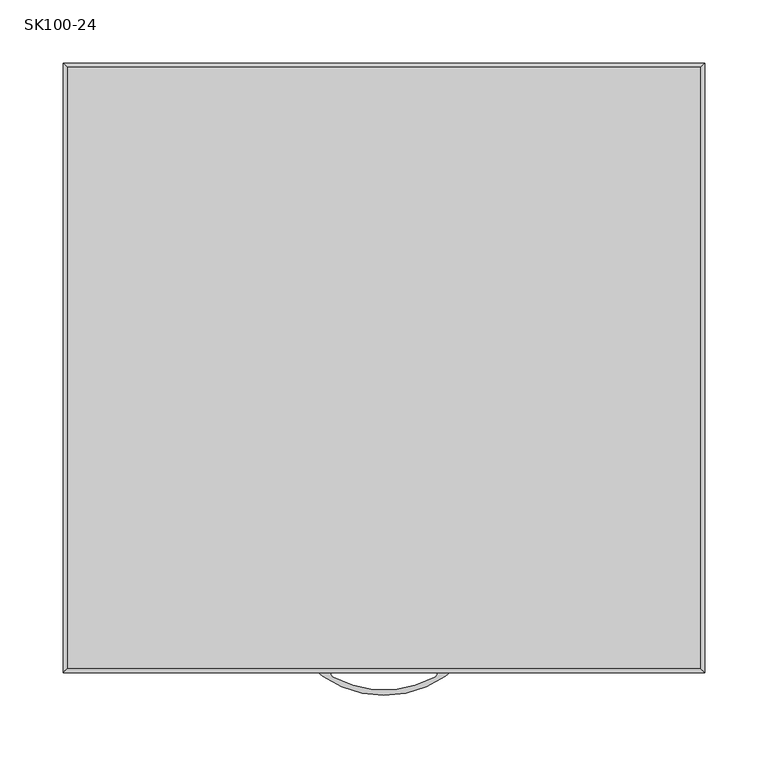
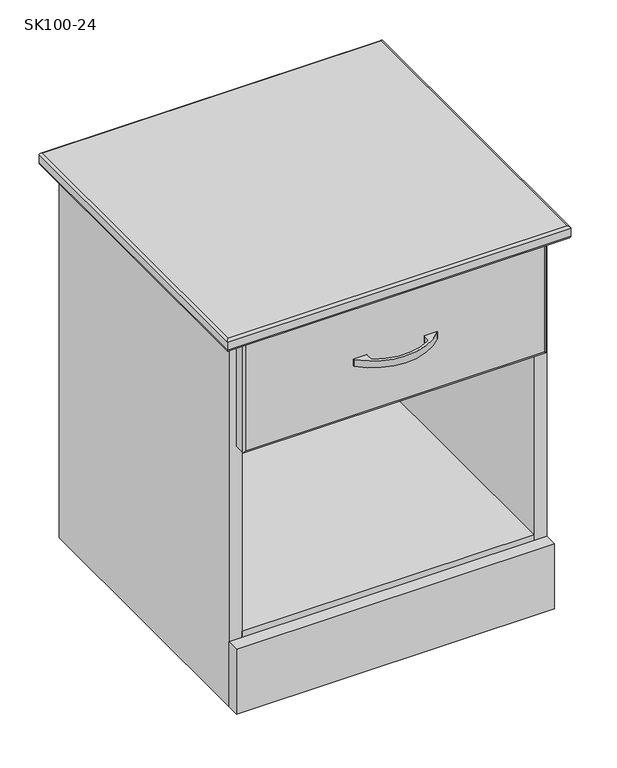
"""IFC4 building model written with IfcOpenShell, lengths in millimetres: furniture geometry, Stance_HC-Kindred-Bedside_Table : SK100-24."""

from ifc_helpers import new_model, si_unit, point, frame, frame_2d, origin, origin_with_axes, place, context, project, spatial, polyline, circle_curve, ellipse_curve, trimmed, segment, composite_curve, outline, extrude, source, transform, mapped, element, save
from ifc_brep_helpers import plane_surface, cylinder_surface, advanced_brep


def sk100_24_b9e1a470(model_context):
    return source(origin(), model_context, "Body", "SolidModel", [
        extrude(outline(composite_curve([segment(trimmed(circle_curve(frame_2d((210.8519309, -473.86875)), 0.79375), [point((210.8519309, -473.075))], [point((211.6456809, -473.86875))], False, "CARTESIAN"), True, "CONTINUOUS"), segment(polyline([(211.6456809, -473.86875), (211.6456809, -482.4929816)]), True, "CONTINUOUS"), segment(trimmed(circle_curve(frame_2d((215.613842, -482.4929816)), 3.9681611), [point((211.6456809, -482.4929816))], [point((213.6677065, -485.9511399))], True, "CARTESIAN"), True, "CONTINUOUS"), segment(trimmed(circle_curve(frame_2d((254.0001809, -414.2829117)), 82.2377251), [point((213.6677065, -485.9511399))], [point((294.33234, -485.9513174))], True, "CARTESIAN"), True, "CONTINUOUS"), segment(trimmed(circle_curve(frame_2d((292.3859309, -482.4926372)), 3.96875), [point((294.33234, -485.9513174))], [point((296.3546809, -482.4926372))], True, "CARTESIAN"), True, "CONTINUOUS"), segment(polyline([(296.3546809, -482.4926372), (296.3546809, -473.86875)]), True, "CONTINUOUS"), segment(trimmed(circle_curve(frame_2d((297.1484309, -473.86875)), 0.79375), [point((296.3546809, -473.86875))], [point((297.1484309, -473.075))], False, "CARTESIAN"), True, "CONTINUOUS"), segment(polyline([(297.1484309, -473.075), (315.1281078, -473.075)]), True, "CONTINUOUS"), segment(trimmed(circle_curve(frame_2d((315.1281078, -473.8745427)), 0.7995427), [point((315.1281078, -473.075))], [point((315.7010481, -474.4322237))], False, "CARTESIAN"), True, "CONTINUOUS"), segment(trimmed(circle_curve(frame_2d((254.0001809, -414.3746538)), 86.1040574), [point((315.7010481, -474.4322237))], [point((192.289655, -474.422299))], False, "CARTESIAN"), True, "CONTINUOUS"), segment(trimmed(circle_curve(frame_2d((192.8585333, -473.86875)), 0.79375), [point((192.289655, -474.422299))], [point((192.8585333, -473.075))], False, "CARTESIAN"), True, "CONTINUOUS"), segment(polyline([(192.8585333, -473.075), (210.8519309, -473.075)]), True, "CONTINUOUS")], self_intersect=False)), frame((0.0, 0.0, 483.7938), z_axis=(0.0, 0.0, 1.0), x_axis=(1.0, 0.0, 0.0)), (0.0, 0.0, 1.0), 10.3124),
        extrude(outline(polyline([(456.1078, -53.975), (456.1078, -454.025), (51.8922, -454.025), (51.8922, -53.975), (456.1078, -53.975)])), frame((0.0, 0.0, 434.975), z_axis=(0.0, 0.0, 1.0), x_axis=(1.0, 0.0, 0.0)), (0.0, 0.0, 1.0), 12.7),
        extrude(outline(polyline([(456.1078, -53.975), (456.1078, -454.025), (454.025, -454.025), (454.025, -66.675), (53.975, -66.675), (53.975, -454.025), (51.8922, -454.025), (51.8922, -53.975), (456.1078, -53.975)])), frame((0.0, 0.0, 447.675), z_axis=(0.0, 0.0, 1.0), x_axis=(1.0, 0.0, 0.0)), (0.0, 0.0, 1.0), 103.8225),
        advanced_brep(
        [(474.6625, -473.075, 406.4), (474.6625, -473.075, 571.5), (33.3375, -473.075, 571.5), (33.3375, -473.075, 406.4), (477.8375, -454.025, 574.675), (477.8375, -454.025, 403.225), (30.1625, -454.025, 403.225), (30.1625, -454.025, 574.675), (477.8375, -469.9, 574.675), (477.8375, -469.9, 403.225), (30.1625, -469.9, 403.225), (30.1625, -469.9, 574.675)],
        [
            (0, 1),
            (1, 2),
            (2, 3),
            (3, 0),
            (4, 5),
            (5, 6),
            (6, 7),
            (7, 4),
            (8, 1, ellipse_curve(frame((474.6625, -469.9, 571.5), z_axis=(0.7071067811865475, 0.0, -0.7071067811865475), x_axis=(0.7071067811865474, 0.0, 0.7071067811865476)), 4.4901281, 3.175)),
            (0, 9, ellipse_curve(frame((474.6625, -469.9, 406.4), z_axis=(0.7071067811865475, 0.0, 0.7071067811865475), x_axis=(-0.7071067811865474, 0.0, 0.7071067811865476)), 4.4901281, 3.175)),
            (9, 8),
            (9, 5),
            (4, 8),
            (3, 10, ellipse_curve(frame((33.3375, -469.9, 406.4), z_axis=(0.7071067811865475, 0.0, -0.7071067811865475), x_axis=(0.7071067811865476, 0.0, 0.7071067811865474)), 4.4901281, 3.175)),
            (10, 9),
            (10, 6),
            (2, 11, ellipse_curve(frame((33.3375, -469.9, 571.5), z_axis=(-0.7071067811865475, 0.0, -0.7071067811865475), x_axis=(0.7071067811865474, 0.0, -0.7071067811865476)), 4.4901281, 3.175)),
            (11, 10),
            (11, 7),
            (8, 11),
        ],
        [
            plane_surface(frame((36.5125, -473.075, 409.575), z_axis=(0.0, -1.0, 0.0), x_axis=(0.0, 0.0, -1.0))),
            plane_surface(frame((36.5125, -454.025, 409.575), z_axis=(0.0, 1.0, 0.0), x_axis=(0.0, 0.0, 1.0))),
            cylinder_surface(frame((474.6625, -469.9, 574.675), z_axis=(0.0, 0.0, 1.0), x_axis=(1.0, 0.0, 0.0)), 3.175),
            plane_surface(frame((477.8375, -469.9, 574.675), z_axis=(1.0, 0.0, 0.0), x_axis=(0.0, 0.0, -1.0))),
            cylinder_surface(frame((477.8375, -469.9, 406.4), z_axis=(1.0, 0.0, 0.0), x_axis=(0.0, 0.0, -1.0)), 3.175),
            plane_surface(frame((477.8375, -469.9, 403.225), z_axis=(0.0, 0.0, -1.0), x_axis=(-1.0, 0.0, 0.0))),
            cylinder_surface(frame((33.3375, -469.9, 403.225), z_axis=(0.0, 0.0, -1.0), x_axis=(-1.0, 0.0, 0.0)), 3.175),
            plane_surface(frame((30.1625, -469.9, 403.225), z_axis=(-1.0, 0.0, 0.0), x_axis=(0.0, 0.0, 1.0))),
            cylinder_surface(frame((30.1625, -469.9, 571.5), z_axis=(-1.0, 0.0, 0.0), x_axis=(0.0, 0.0, 1.0)), 3.175),
            plane_surface(frame((30.1625, -469.9, 574.675), z_axis=(0.0, 0.0, 1.0), x_axis=(1.0, 0.0, 0.0))),
        ],
        [
            (0, [[1, 2, 3, 4]]),
            (1, [[5, 6, 7, 8]]),
            (2, [[9, -1, 10, 11]]),
            (3, [[-11, 12, -5, 13]]),
            (4, [[-10, -4, 14, 15]]),
            (5, [[-12, -15, 16, -6]]),
            (6, [[-14, -3, 17, 18]]),
            (7, [[-16, -18, 19, -7]]),
            (8, [[-9, 20, -17, -2]]),
            (9, [[-13, -8, -19, -20]]),
        ],
    ),
        extrude(outline(composite_curve([segment(trimmed(circle_curve(frame_2d((210.8519309, -473.86875)), 0.79375), [point((210.8519309, -473.075))], [point((211.6456809, -473.86875))], False, "CARTESIAN"), True, "CONTINUOUS"), segment(polyline([(211.6456809, -473.86875), (211.6456809, -482.4929816)]), True, "CONTINUOUS"), segment(trimmed(circle_curve(frame_2d((215.613842, -482.4929816)), 3.9681611), [point((211.6456809, -482.4929816))], [point((213.6677065, -485.9511399))], True, "CARTESIAN"), True, "CONTINUOUS"), segment(trimmed(circle_curve(frame_2d((254.0001809, -414.2829117)), 82.2377251), [point((213.6677065, -485.9511399))], [point((294.33234, -485.9513174))], True, "CARTESIAN"), True, "CONTINUOUS"), segment(trimmed(circle_curve(frame_2d((292.3859309, -482.4926372)), 3.96875), [point((294.33234, -485.9513174))], [point((296.3546809, -482.4926372))], True, "CARTESIAN"), True, "CONTINUOUS"), segment(polyline([(296.3546809, -482.4926372), (296.3546809, -473.86875)]), True, "CONTINUOUS"), segment(trimmed(circle_curve(frame_2d((297.1484309, -473.86875)), 0.79375), [point((296.3546809, -473.86875))], [point((297.1484309, -473.075))], False, "CARTESIAN"), True, "CONTINUOUS"), segment(polyline([(297.1484309, -473.075), (315.1281078, -473.075)]), True, "CONTINUOUS"), segment(trimmed(circle_curve(frame_2d((315.1281078, -473.8745427)), 0.7995427), [point((315.1281078, -473.075))], [point((315.7010481, -474.4322237))], False, "CARTESIAN"), True, "CONTINUOUS"), segment(trimmed(circle_curve(frame_2d((254.0001809, -414.3746538)), 86.1040574), [point((315.7010481, -474.4322237))], [point((192.289655, -474.422299))], False, "CARTESIAN"), True, "CONTINUOUS"), segment(trimmed(circle_curve(frame_2d((192.8585333, -473.86875)), 0.79375), [point((192.289655, -474.422299))], [point((192.8585333, -473.075))], False, "CARTESIAN"), True, "CONTINUOUS"), segment(polyline([(192.8585333, -473.075), (210.8519309, -473.075)]), True, "CONTINUOUS")], self_intersect=False)), frame((0.0, 0.0, 483.7938), z_axis=(0.0, 0.0, 1.0), x_axis=(1.0, 0.0, 0.0)), (0.0, 0.0, 1.0), 10.3124),
        extrude(outline(polyline([(456.1078, -53.975), (456.1078, -454.025), (51.8922, -454.025), (51.8922, -53.975), (456.1078, -53.975)])), frame((0.0, 0.0, 434.975), z_axis=(0.0, 0.0, 1.0), x_axis=(1.0, 0.0, 0.0)), (0.0, 0.0, 1.0), 12.7),
        extrude(outline(polyline([(456.1078, -53.975), (456.1078, -454.025), (454.025, -454.025), (454.025, -66.675), (53.975, -66.675), (53.975, -454.025), (51.8922, -454.025), (51.8922, -53.975), (456.1078, -53.975)])), frame((0.0, 0.0, 447.675), z_axis=(0.0, 0.0, 1.0), x_axis=(1.0, 0.0, 0.0)), (0.0, 0.0, 1.0), 103.8225),
        advanced_brep(
        [(474.6625, -473.075, 406.4), (474.6625, -473.075, 571.5), (33.3375, -473.075, 571.5), (33.3375, -473.075, 406.4), (477.8375, -454.025, 574.675), (477.8375, -454.025, 403.225), (30.1625, -454.025, 403.225), (30.1625, -454.025, 574.675), (477.8375, -469.9, 574.675), (477.8375, -469.9, 403.225), (30.1625, -469.9, 403.225), (30.1625, -469.9, 574.675)],
        [
            (0, 1),
            (1, 2),
            (2, 3),
            (3, 0),
            (4, 5),
            (5, 6),
            (6, 7),
            (7, 4),
            (8, 1, ellipse_curve(frame((474.6625, -469.9, 571.5), z_axis=(0.7071067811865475, 0.0, -0.7071067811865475), x_axis=(0.7071067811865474, 0.0, 0.7071067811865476)), 4.4901281, 3.175)),
            (0, 9, ellipse_curve(frame((474.6625, -469.9, 406.4), z_axis=(0.7071067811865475, 0.0, 0.7071067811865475), x_axis=(-0.7071067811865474, 0.0, 0.7071067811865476)), 4.4901281, 3.175)),
            (9, 8),
            (9, 5),
            (4, 8),
            (3, 10, ellipse_curve(frame((33.3375, -469.9, 406.4), z_axis=(0.7071067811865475, 0.0, -0.7071067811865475), x_axis=(0.7071067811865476, 0.0, 0.7071067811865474)), 4.4901281, 3.175)),
            (10, 9),
            (10, 6),
            (2, 11, ellipse_curve(frame((33.3375, -469.9, 571.5), z_axis=(-0.7071067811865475, 0.0, -0.7071067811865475), x_axis=(0.7071067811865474, 0.0, -0.7071067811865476)), 4.4901281, 3.175)),
            (11, 10),
            (11, 7),
            (8, 11),
        ],
        [
            plane_surface(frame((36.5125, -473.075, 409.575), z_axis=(0.0, -1.0, 0.0), x_axis=(0.0, 0.0, -1.0))),
            plane_surface(frame((36.5125, -454.025, 409.575), z_axis=(0.0, 1.0, 0.0), x_axis=(0.0, 0.0, 1.0))),
            cylinder_surface(frame((474.6625, -469.9, 574.675), z_axis=(0.0, 0.0, 1.0), x_axis=(1.0, 0.0, 0.0)), 3.175),
            plane_surface(frame((477.8375, -469.9, 574.675), z_axis=(1.0, 0.0, 0.0), x_axis=(0.0, 0.0, -1.0))),
            cylinder_surface(frame((477.8375, -469.9, 406.4), z_axis=(1.0, 0.0, 0.0), x_axis=(0.0, 0.0, -1.0)), 3.175),
            plane_surface(frame((477.8375, -469.9, 403.225), z_axis=(0.0, 0.0, -1.0), x_axis=(-1.0, 0.0, 0.0))),
            cylinder_surface(frame((33.3375, -469.9, 403.225), z_axis=(0.0, 0.0, -1.0), x_axis=(-1.0, 0.0, 0.0)), 3.175),
            plane_surface(frame((30.1625, -469.9, 403.225), z_axis=(-1.0, 0.0, 0.0), x_axis=(0.0, 0.0, 1.0))),
            cylinder_surface(frame((30.1625, -469.9, 571.5), z_axis=(-1.0, 0.0, 0.0), x_axis=(0.0, 0.0, 1.0)), 3.175),
            plane_surface(frame((30.1625, -469.9, 574.675), z_axis=(0.0, 0.0, 1.0), x_axis=(1.0, 0.0, 0.0))),
        ],
        [
            (0, [[1, 2, 3, 4]]),
            (1, [[5, 6, 7, 8]]),
            (2, [[9, -1, 10, 11]]),
            (3, [[-11, 12, -5, 13]]),
            (4, [[-10, -4, 14, 15]]),
            (5, [[-12, -15, 16, -6]]),
            (6, [[-14, -3, 17, 18]]),
            (7, [[-16, -18, 19, -7]]),
            (8, [[-9, 20, -17, -2]]),
            (9, [[-13, -8, -19, -20]]),
        ],
    ),
        extrude(outline(polyline([(488.95, -454.025), (488.95, -473.075), (19.05, -473.075), (19.05, -454.025), (488.95, -454.025)])), origin_with_axes(), (0.0, 0.0, 1.0), 101.6),
        advanced_brep(
        [(504.825, -3.175, 577.85), (508.0, 0.0, 581.025), (508.0, -482.6, 581.025), (504.825, -479.425, 577.85), (508.0, 0.0, 593.725), (504.825, -3.175, 596.9), (504.825, -479.425, 596.9), (508.0, -482.6, 593.725), (0.0, -482.6, 581.025), (3.175, -479.425, 577.85), (3.175, -479.425, 596.9), (0.0, -482.6, 593.725), (0.0, 0.0, 581.025), (3.175, -3.175, 577.85), (3.175, -3.175, 596.9), (0.0, 0.0, 593.725)],
        [
            (0, 1, ellipse_curve(frame((504.825, -3.175, 581.025), z_axis=(0.7071067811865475, -0.7071067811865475, 0.0), x_axis=(0.7071067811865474, 0.7071067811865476, 0.0)), 4.4901281, 3.175)),
            (1, 2),
            (2, 3, ellipse_curve(frame((504.825, -479.425, 581.025), z_axis=(0.7071067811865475, 0.7071067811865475, 0.0), x_axis=(-0.7071067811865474, 0.7071067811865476, 0.0)), 4.4901281, 3.175)),
            (3, 0),
            (4, 5, ellipse_curve(frame((504.825, -3.175, 593.725), z_axis=(0.7071067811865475, -0.7071067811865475, 0.0), x_axis=(0.7071067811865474, 0.7071067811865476, 0.0)), 4.4901281, 3.175)),
            (5, 6),
            (6, 7, ellipse_curve(frame((504.825, -479.425, 593.725), z_axis=(0.7071067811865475, 0.7071067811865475, 0.0), x_axis=(-0.7071067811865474, 0.7071067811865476, 0.0)), 4.4901281, 3.175)),
            (7, 4),
            (1, 4),
            (7, 2),
            (2, 8),
            (8, 9, ellipse_curve(frame((3.175, -479.425, 581.025), z_axis=(0.7071067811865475, -0.7071067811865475, 0.0), x_axis=(0.7071067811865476, 0.7071067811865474, 0.0)), 4.4901281, 3.175)),
            (9, 3),
            (6, 10),
            (10, 11, ellipse_curve(frame((3.175, -479.425, 593.725), z_axis=(0.7071067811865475, -0.7071067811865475, 0.0), x_axis=(0.7071067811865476, 0.7071067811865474, 0.0)), 4.4901281, 3.175)),
            (11, 7),
            (11, 8),
            (8, 12),
            (12, 13, ellipse_curve(frame((3.175, -3.175, 581.025), z_axis=(-0.7071067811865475, -0.7071067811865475, 0.0), x_axis=(0.7071067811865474, -0.7071067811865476, 0.0)), 4.4901281, 3.175)),
            (13, 9),
            (10, 14),
            (14, 15, ellipse_curve(frame((3.175, -3.175, 593.725), z_axis=(-0.7071067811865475, -0.7071067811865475, 0.0), x_axis=(0.7071067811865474, -0.7071067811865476, 0.0)), 4.4901281, 3.175)),
            (15, 11),
            (15, 12),
            (0, 13),
            (12, 1),
            (5, 14),
            (4, 15),
        ],
        [
            cylinder_surface(frame((504.825, 0.0, 581.025), z_axis=(0.0, 1.0, 0.0), x_axis=(1.0, 0.0, 0.0)), 3.175),
            cylinder_surface(frame((504.825, 0.0, 593.725), z_axis=(0.0, 1.0, 0.0), x_axis=(1.0, 0.0, 0.0)), 3.175),
            plane_surface(frame((508.0, 0.0, 593.725), z_axis=(1.0, 0.0, 0.0), x_axis=(0.0, -1.0, 0.0))),
            cylinder_surface(frame((508.0, -479.425, 581.025), z_axis=(1.0, 0.0, 0.0), x_axis=(0.0, -1.0, 0.0)), 3.175),
            cylinder_surface(frame((508.0, -479.425, 593.725), z_axis=(1.0, 0.0, 0.0), x_axis=(0.0, -1.0, 0.0)), 3.175),
            plane_surface(frame((508.0, -482.6, 593.725), z_axis=(0.0, -1.0, 0.0), x_axis=(-1.0, 0.0, 0.0))),
            cylinder_surface(frame((3.175, -482.6, 581.025), z_axis=(0.0, -1.0, 0.0), x_axis=(-1.0, 0.0, 0.0)), 3.175),
            cylinder_surface(frame((3.175, -482.6, 593.725), z_axis=(0.0, -1.0, 0.0), x_axis=(-1.0, 0.0, 0.0)), 3.175),
            plane_surface(frame((0.0, -482.6, 593.725), z_axis=(-1.0, 0.0, 0.0), x_axis=(0.0, 1.0, 0.0))),
            cylinder_surface(frame((0.0, -3.175, 581.025), z_axis=(-1.0, 0.0, 0.0), x_axis=(0.0, 1.0, 0.0)), 3.175),
            plane_surface(frame((3.175, -3.175, 577.85), z_axis=(0.0, 0.0, -1.0), x_axis=(1.0, 0.0, 0.0))),
            plane_surface(frame((6.35, -6.35, 596.9), z_axis=(0.0, 0.0, 1.0), x_axis=(1.0, 0.0, 0.0))),
            cylinder_surface(frame((0.0, -3.175, 593.725), z_axis=(-1.0, 0.0, 0.0), x_axis=(0.0, 1.0, 0.0)), 3.175),
            plane_surface(frame((0.0, 0.0, 593.725), z_axis=(0.0, 1.0, 0.0), x_axis=(1.0, 0.0, 0.0))),
        ],
        [
            (0, [[1, 2, 3, 4]]),
            (1, [[5, 6, 7, 8]]),
            (2, [[-2, 9, -8, 10]]),
            (3, [[-3, 11, 12, 13]]),
            (4, [[-7, 14, 15, 16]]),
            (5, [[-10, -16, 17, -11]]),
            (6, [[-12, 18, 19, 20]]),
            (7, [[-15, 21, 22, 23]]),
            (8, [[-17, -23, 24, -18]]),
            (9, [[-1, 25, -19, 26]]),
            (10, [[-4, -13, -20, -25]]),
            (11, [[-6, 27, -21, -14]]),
            (12, [[-5, 28, -22, -27]]),
            (13, [[-9, -26, -24, -28]]),
        ],
    ),
        extrude(outline(polyline([(469.9, -44.45), (469.9, -454.025), (38.1, -454.025), (38.1, -44.45), (469.9, -44.45)])), frame((0.0, 0.0, 92.075), z_axis=(0.0, 0.0, 1.0), x_axis=(1.0, 0.0, 0.0)), (0.0, 0.0, 1.0), 19.05),
        extrude(outline(polyline([(469.9, -44.45), (469.9, -146.05), (38.1, -146.05), (38.1, -44.45), (469.9, -44.45)])), frame((0.0, 0.0, 558.8), z_axis=(0.0, 0.0, 1.0), x_axis=(1.0, 0.0, 0.0)), (0.0, 0.0, 1.0), 19.05),
        extrude(outline(polyline([(469.9, -352.425), (469.9, -454.025), (38.1, -454.025), (38.1, -352.425), (469.9, -352.425)])), frame((0.0, 0.0, 558.8), z_axis=(0.0, 0.0, 1.0), x_axis=(1.0, 0.0, 0.0)), (0.0, 0.0, 1.0), 19.05),
        extrude(outline(polyline([(469.9, -44.45), (38.1, -44.45), (38.1, -25.4), (469.9, -25.4), (469.9, -44.45)])), origin_with_axes(), (0.0, 0.0, 1.0), 577.85),
        extrude(outline(polyline([(38.1, -19.05), (38.1, -454.025), (19.05, -454.025), (19.05, -19.05), (38.1, -19.05)])), origin_with_axes(), (0.0, 0.0, 1.0), 577.85),
        extrude(outline(polyline([(469.9, -19.05), (488.95, -19.05), (488.95, -454.025), (469.9, -454.025), (469.9, -19.05)])), origin_with_axes(), (0.0, 0.0, 1.0), 577.85),
    ])


if __name__ == "__main__":
    model = new_model("IFC4")
    model_context = context("Model", 3, world=origin())
    ifc_project = project(units=[si_unit("LENGTHUNIT", "METRE", prefix="MILLI")], contexts=[model_context])
    site = spatial("IfcSite", under=ifc_project)
    building = spatial("IfcBuilding", under=site)
    placement = place(None, origin())
    sk100_24_shape = sk100_24_b9e1a470(model_context)
    element("IfcFurniture", 1, ObjectType="Stance_HC-Kindred-Bedside_Table : SK100-24", at=placement, inside=building, context=model_context, shape_type="MappedRepresentation", body=[
        mapped(sk100_24_shape, transform((0.0, 0.0, 0.0), x_axis=(1.0, 0.0, 0.0), y_axis=(0.0, 1.0, 0.0), z_axis=(0.0, 0.0, 1.0))),
    ])
    save(model, "model.ifc")
